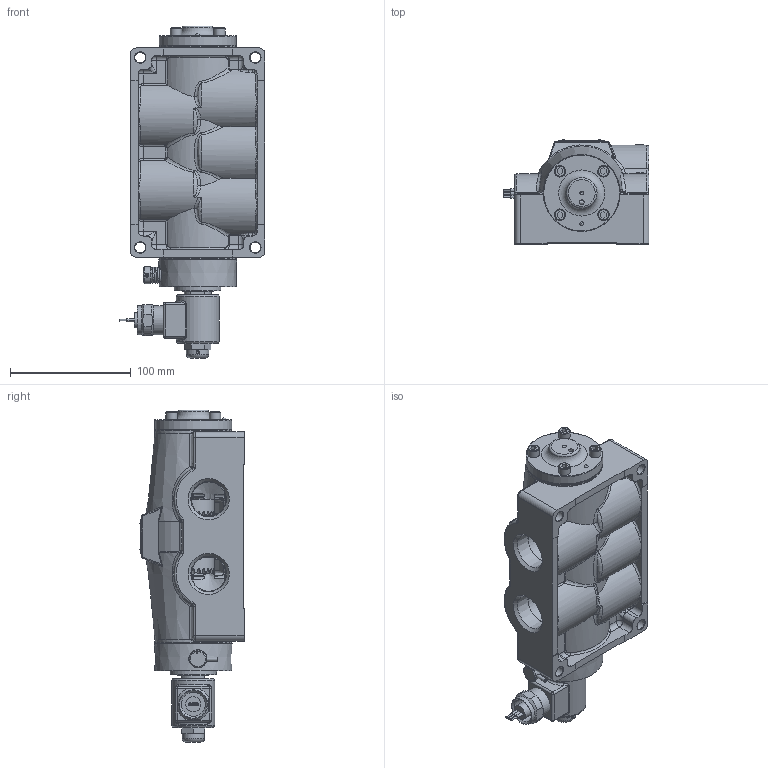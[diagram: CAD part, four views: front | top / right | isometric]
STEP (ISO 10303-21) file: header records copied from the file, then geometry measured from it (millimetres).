
FILE_DESCRIPTION(/* description */ (''),/* implementation_level */ '2;1');
FILE_NAME(/* name */ 'D:\Website New\Valves\Classic\SO\stp\SO8MONL.stp',/* time_stamp */ '2020-01-09T08:55:51-05:00',/* author */ ('RMcKenna'),/* organization */ (''),/* preprocessor_version */ 'ST-DEVELOPER v17',/* originating_system */ 'Autodesk Inventor 2018',/* authorisation */ '');
FILE_SCHEMA (('AUTOMOTIVE_DESIGN { 1 0 10303 214 3 1 1 }'));
Products named in the file (1): Part51
Bounding box: 120.56 x 86.28 x 274.68 mm (x, y, z)
Volume: 1073649.3 mm3; surface area: 223057.6 mm2
Topology: 2 solids, 26 shells, 2118 faces, 5177 edges, 3193 vertices
Faces by surface type: plane 673, cylinder 490, cone 340, bspline 336, torus 190, sphere 89
Full cylindrical faces by diameter (mm): 1.041 x1, 1.321 x2, 1.346 x3, 2.07 x2, 2.261 x2, 2.35 x1, 2.381 x3, 2.718 x1, 2.778 x2, 3.048 x1, 3.175 x7, 3.302 x1, 3.962 x3, 3.969 x1, 4.978 x8, 5.639 x1, 6.35 x8, 6.629 x2, 6.934 x1, 7.137 x4, 7.144 x8, 8.712 x4, 9.462 x2, 9.474 x4, 9.525 x10, 9.83 x1, 11.328 x1, 11.43 x1, 11.836 x1, 12.598 x1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
Entity records: 93945 total; most frequent: CARTESIAN_POINT 44262, ORIENTED_EDGE 10198, DIRECTION 9474, EDGE_CURVE 5099, AXIS2_PLACEMENT_3D 3828, VERTEX_POINT 3195, EDGE_LOOP 2342, FACE_OUTER_BOUND 2118
